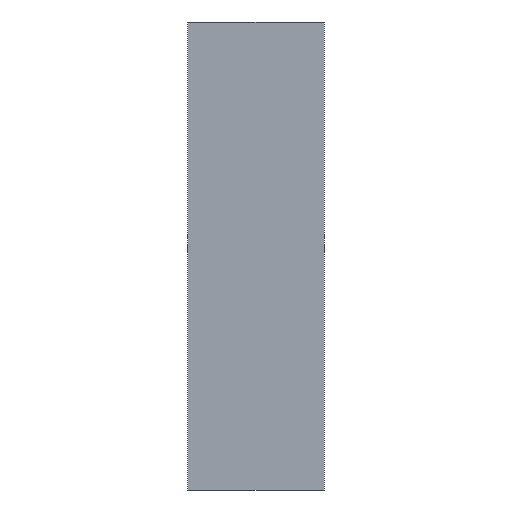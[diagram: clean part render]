
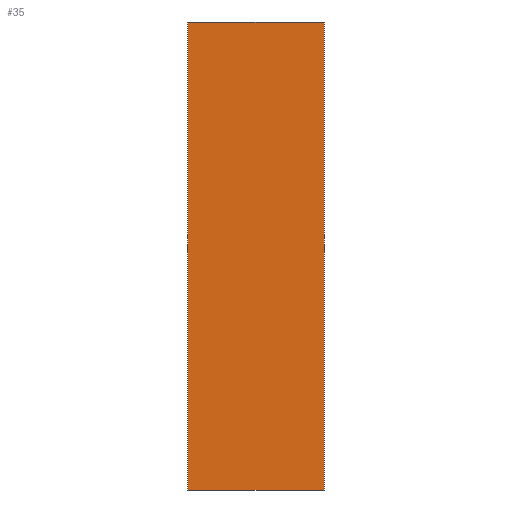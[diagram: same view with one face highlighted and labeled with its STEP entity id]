
A CAD part, left-side view. The second image highlights one B-rep face of the part: STEP entity #35.
In plain terms, the highlighted planar face has unit normal (-1, 0, 0).
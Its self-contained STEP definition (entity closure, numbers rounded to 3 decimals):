
#35 = ADVANCED_FACE('',(#36),#50,.F.);
#36 = FACE_BOUND('',#37,.F.);
#37 = EDGE_LOOP('',(#38,#73,#101,#129));
#38 = ORIENTED_EDGE('',*,*,#39,.F.);
#39 = EDGE_CURVE('',#40,#42,#44,.T.);
#40 = VERTEX_POINT('',#41);
#41 = CARTESIAN_POINT('',(-1.,-48.,-165.));
#42 = VERTEX_POINT('',#43);
#43 = CARTESIAN_POINT('',(-1.,-48.,165.));
#44 = SURFACE_CURVE('',#45,(#49,#61),.PCURVE_S1.);
#45 = LINE('',#46,#47);
#46 = CARTESIAN_POINT('',(-1.,-48.,-165.));
#47 = VECTOR('',#48,1.);
#48 = DIRECTION('',(0.,0.,1.));
#49 = PCURVE('',#50,#55);
#50 = PLANE('',#51);
#51 = AXIS2_PLACEMENT_3D('',#52,#53,#54);
#52 = CARTESIAN_POINT('',(-1.,-48.,-165.));
#53 = DIRECTION('',(1.,0.,-0.));
#54 = DIRECTION('',(0.,0.,1.));
#55 = DEFINITIONAL_REPRESENTATION('',(#56),#60);
#56 = LINE('',#57,#58);
#57 = CARTESIAN_POINT('',(0.,0.));
#58 = VECTOR('',#59,1.);
#59 = DIRECTION('',(1.,0.));
#60 = ( GEOMETRIC_REPRESENTATION_CONTEXT(2) 
PARAMETRIC_REPRESENTATION_CONTEXT() REPRESENTATION_CONTEXT('2D SPACE',''
  ) );
#61 = PCURVE('',#62,#67);
#62 = PLANE('',#63);
#63 = AXIS2_PLACEMENT_3D('',#64,#65,#66);
#64 = CARTESIAN_POINT('',(-1.,-48.,-165.));
#65 = DIRECTION('',(-0.,1.,0.));
#66 = DIRECTION('',(0.,0.,1.));
#67 = DEFINITIONAL_REPRESENTATION('',(#68),#72);
#68 = LINE('',#69,#70);
#69 = CARTESIAN_POINT('',(0.,0.));
#70 = VECTOR('',#71,1.);
#71 = DIRECTION('',(1.,0.));
#72 = ( GEOMETRIC_REPRESENTATION_CONTEXT(2) 
PARAMETRIC_REPRESENTATION_CONTEXT() REPRESENTATION_CONTEXT('2D SPACE',''
  ) );
#73 = ORIENTED_EDGE('',*,*,#74,.T.);
#74 = EDGE_CURVE('',#40,#75,#77,.T.);
#75 = VERTEX_POINT('',#76);
#76 = CARTESIAN_POINT('',(-1.,48.,-165.));
#77 = SURFACE_CURVE('',#78,(#82,#89),.PCURVE_S1.);
#78 = LINE('',#79,#80);
#79 = CARTESIAN_POINT('',(-1.,-48.,-165.));
#80 = VECTOR('',#81,1.);
#81 = DIRECTION('',(-0.,1.,0.));
#82 = PCURVE('',#50,#83);
#83 = DEFINITIONAL_REPRESENTATION('',(#84),#88);
#84 = LINE('',#85,#86);
#85 = CARTESIAN_POINT('',(0.,0.));
#86 = VECTOR('',#87,1.);
#87 = DIRECTION('',(0.,-1.));
#88 = ( GEOMETRIC_REPRESENTATION_CONTEXT(2) 
PARAMETRIC_REPRESENTATION_CONTEXT() REPRESENTATION_CONTEXT('2D SPACE',''
  ) );
#89 = PCURVE('',#90,#95);
#90 = PLANE('',#91);
#91 = AXIS2_PLACEMENT_3D('',#92,#93,#94);
#92 = CARTESIAN_POINT('',(-1.,-48.,-165.));
#93 = DIRECTION('',(0.,0.,1.));
#94 = DIRECTION('',(1.,0.,-0.));
#95 = DEFINITIONAL_REPRESENTATION('',(#96),#100);
#96 = LINE('',#97,#98);
#97 = CARTESIAN_POINT('',(0.,0.));
#98 = VECTOR('',#99,1.);
#99 = DIRECTION('',(0.,1.));
#100 = ( GEOMETRIC_REPRESENTATION_CONTEXT(2) 
PARAMETRIC_REPRESENTATION_CONTEXT() REPRESENTATION_CONTEXT('2D SPACE',''
  ) );
#101 = ORIENTED_EDGE('',*,*,#102,.T.);
#102 = EDGE_CURVE('',#75,#103,#105,.T.);
#103 = VERTEX_POINT('',#104);
#104 = CARTESIAN_POINT('',(-1.,48.,165.));
#105 = SURFACE_CURVE('',#106,(#110,#117),.PCURVE_S1.);
#106 = LINE('',#107,#108);
#107 = CARTESIAN_POINT('',(-1.,48.,-165.));
#108 = VECTOR('',#109,1.);
#109 = DIRECTION('',(0.,0.,1.));
#110 = PCURVE('',#50,#111);
#111 = DEFINITIONAL_REPRESENTATION('',(#112),#116);
#112 = LINE('',#113,#114);
#113 = CARTESIAN_POINT('',(0.,-96.));
#114 = VECTOR('',#115,1.);
#115 = DIRECTION('',(1.,0.));
#116 = ( GEOMETRIC_REPRESENTATION_CONTEXT(2) 
PARAMETRIC_REPRESENTATION_CONTEXT() REPRESENTATION_CONTEXT('2D SPACE',''
  ) );
#117 = PCURVE('',#118,#123);
#118 = PLANE('',#119);
#119 = AXIS2_PLACEMENT_3D('',#120,#121,#122);
#120 = CARTESIAN_POINT('',(-1.,48.,-165.));
#121 = DIRECTION('',(-0.,1.,0.));
#122 = DIRECTION('',(0.,0.,1.));
#123 = DEFINITIONAL_REPRESENTATION('',(#124),#128);
#124 = LINE('',#125,#126);
#125 = CARTESIAN_POINT('',(0.,0.));
#126 = VECTOR('',#127,1.);
#127 = DIRECTION('',(1.,0.));
#128 = ( GEOMETRIC_REPRESENTATION_CONTEXT(2) 
PARAMETRIC_REPRESENTATION_CONTEXT() REPRESENTATION_CONTEXT('2D SPACE',''
  ) );
#129 = ORIENTED_EDGE('',*,*,#130,.F.);
#130 = EDGE_CURVE('',#42,#103,#131,.T.);
#131 = SURFACE_CURVE('',#132,(#136,#143),.PCURVE_S1.);
#132 = LINE('',#133,#134);
#133 = CARTESIAN_POINT('',(-1.,-48.,165.));
#134 = VECTOR('',#135,1.);
#135 = DIRECTION('',(-0.,1.,0.));
#136 = PCURVE('',#50,#137);
#137 = DEFINITIONAL_REPRESENTATION('',(#138),#142);
#138 = LINE('',#139,#140);
#139 = CARTESIAN_POINT('',(330.,0.));
#140 = VECTOR('',#141,1.);
#141 = DIRECTION('',(0.,-1.));
#142 = ( GEOMETRIC_REPRESENTATION_CONTEXT(2) 
PARAMETRIC_REPRESENTATION_CONTEXT() REPRESENTATION_CONTEXT('2D SPACE',''
  ) );
#143 = PCURVE('',#144,#149);
#144 = PLANE('',#145);
#145 = AXIS2_PLACEMENT_3D('',#146,#147,#148);
#146 = CARTESIAN_POINT('',(-1.,-48.,165.));
#147 = DIRECTION('',(0.,0.,1.));
#148 = DIRECTION('',(1.,0.,-0.));
#149 = DEFINITIONAL_REPRESENTATION('',(#150),#154);
#150 = LINE('',#151,#152);
#151 = CARTESIAN_POINT('',(0.,0.));
#152 = VECTOR('',#153,1.);
#153 = DIRECTION('',(0.,1.));
#154 = ( GEOMETRIC_REPRESENTATION_CONTEXT(2) 
PARAMETRIC_REPRESENTATION_CONTEXT() REPRESENTATION_CONTEXT('2D SPACE',''
  ) );
